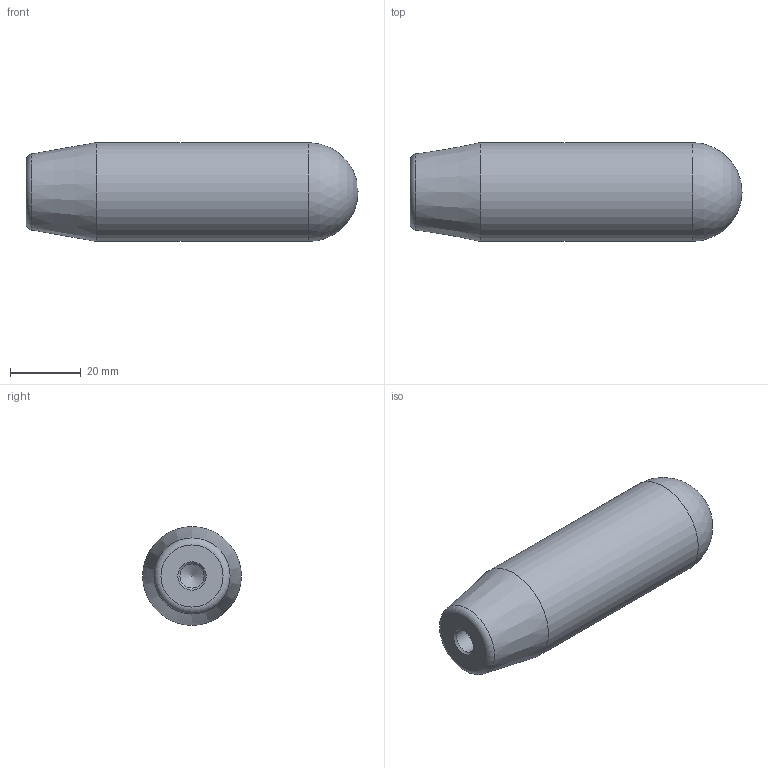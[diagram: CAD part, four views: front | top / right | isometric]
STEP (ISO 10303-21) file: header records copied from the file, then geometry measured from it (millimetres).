
FILE_DESCRIPTION( ('This file contains a STEP AP42 implementation' ,'as created by ZW3D STEP Interface translator.') ,'2;1' );
FILE_NAME( 'R102.stp' ,'26 812. 7 5 4', (''), ('ZWCAD Software Co.'), 'Version 1.0', 'ZW3D to STEP translator', '' );
FILE_SCHEMA(('AP242_MANAGED_MODEL_BASED_3D_ENGINEERING_MIM_LF { 1 0 10303 442 1 1 4 }'));
Length unit declared in the file: millimetre
Products named in the file (1): 0
Bounding box: 94 x 28 x 28 mm (x, y, z)
Volume: 50829.6 mm3; surface area: 9123.7 mm2
Topology: 1 solids, 1 shells, 8 faces, 23 edges, 23 vertices
Faces by surface type: cone 3, cylinder 2, torus 1, sphere 1, plane 1
Full cylindrical faces by diameter (mm): 6.8 x1, 28 x1
Entity records: 284 total; most frequent: DIRECTION 51, CARTESIAN_POINT 41, ORIENTED_EDGE 30, AXIS2_PLACEMENT_3D 21, EDGE_CURVE 15, CIRCLE 12, VERTEX_POINT 10, EDGE_LOOP 9
